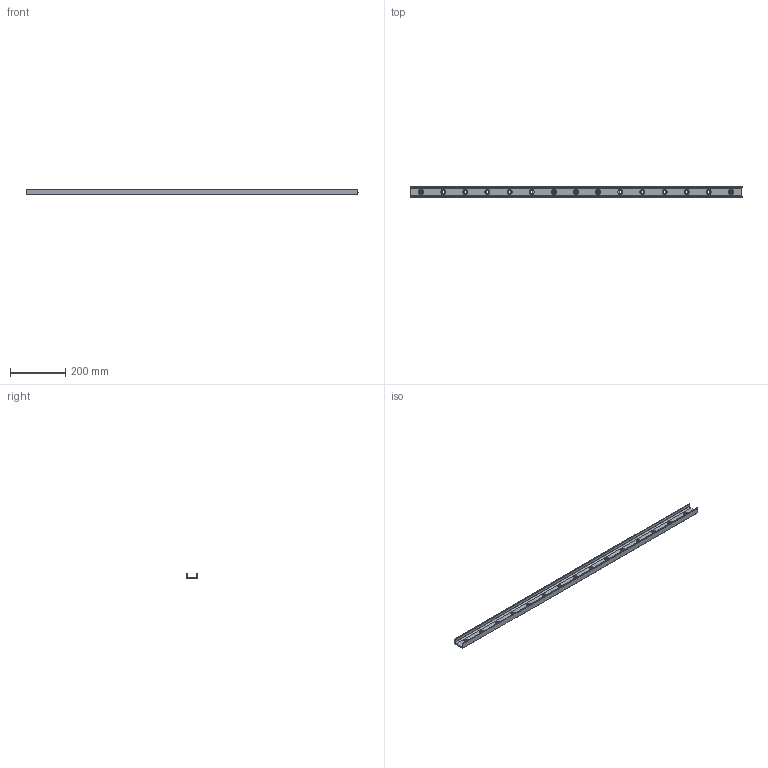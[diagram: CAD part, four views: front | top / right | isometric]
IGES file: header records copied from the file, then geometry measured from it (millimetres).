
Start section: SolidWorks IGES file using analytic representation for surfaces
Global section: file name: C:\Users\IanO\Desktop\43\L1943.ULC43_v2_20180121_IGES\L1943.ULC43-1200.igs; native system: SolidWorks 2017; preprocessor: SolidWorks 2017; author: IanO; date: 190121.084659; units: millimetre
Bounding box: 1200 x 43 x 21 mm (x, y, z)
Surface area: 188571.4 mm2 (no closed solid volume)
Topology: 0 solids, 0 shells, 101 faces, 2454 edges, 2454 vertices
Faces by surface type: revolution 73, bspline 28
